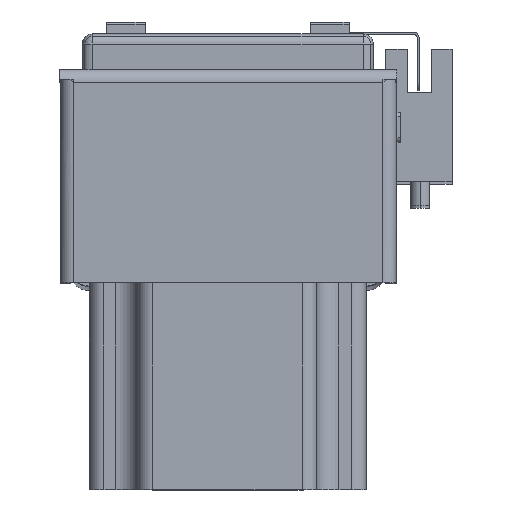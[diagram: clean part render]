
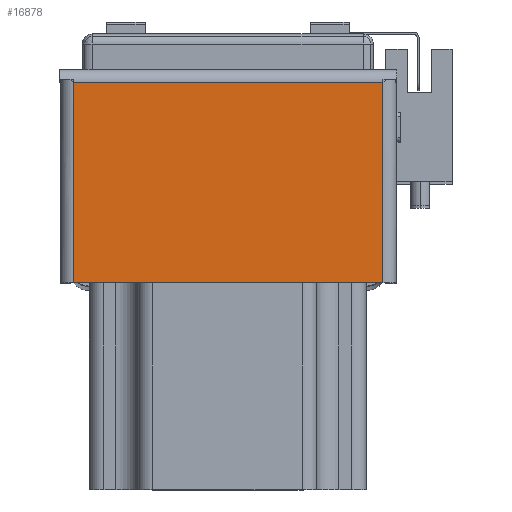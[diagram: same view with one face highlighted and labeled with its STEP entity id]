
A CAD part, top view. The second image highlights one B-rep face of the part: STEP entity #16878.
In plain terms, the highlighted planar face has unit normal (0, 0, 1) as drawn and (1, 0, 0) by its records, which use the part's own axes.
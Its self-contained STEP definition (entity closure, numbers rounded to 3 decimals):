
#1496 = FACE_OUTER_BOUND ( 'NONE', #12470, .T. ) ;
#4468 = CARTESIAN_POINT ( 'NONE',  ( 2., 41.263, -31.863 ) ) ;
#7789 = CARTESIAN_POINT ( 'NONE',  ( 2., 41.263, 31.863 ) ) ;
#7810 = CARTESIAN_POINT ( 'NONE',  ( 2., 0., -31.863 ) ) ;
#7818 = CARTESIAN_POINT ( 'NONE',  ( 2., 0., 31.863 ) ) ;
#11032 = DIRECTION ( 'NONE',  ( -1., 0., 0. ) ) ;
#11041 = PLANE ( 'NONE',  #15344 ) ;
#11042 = DIRECTION ( 'NONE',  ( 0., 0., 1. ) ) ;
#11049 = CARTESIAN_POINT ( 'NONE',  ( 2., 42., -32.6 ) ) ;
#12470 = EDGE_LOOP ( 'NONE', ( #29204, #29254, #29321, #29358 ) ) ;
#15344 = AXIS2_PLACEMENT_3D ( 'NONE', #11049, #11032, #11042 ) ;
#16878 = ADVANCED_FACE ( 'NONE', ( #1496 ), #11041, .F. ) ;
#18795 = LINE ( 'NONE', #20327, #18796 ) ;
#18796 = VECTOR ( 'NONE', #20337, 1000. ) ;
#18798 = LINE ( 'NONE', #20238, #18831 ) ;
#18824 = LINE ( 'NONE', #20296, #18825 ) ;
#18825 = VECTOR ( 'NONE', #20302, 1000. ) ;
#18831 = VECTOR ( 'NONE', #20258, 1000. ) ;
#20238 = CARTESIAN_POINT ( 'NONE',  ( 2., 42., -31.863 ) ) ;
#20253 = CARTESIAN_POINT ( 'NONE',  ( 2., 0., -32.6 ) ) ;
#20258 = DIRECTION ( 'NONE',  ( 0., -1., 0. ) ) ;
#20272 = DIRECTION ( 'NONE',  ( 0., 0., -1. ) ) ;
#20296 = CARTESIAN_POINT ( 'NONE',  ( 2., 42., 31.863 ) ) ;
#20302 = DIRECTION ( 'NONE',  ( 0., -1., 0. ) ) ;
#20327 = CARTESIAN_POINT ( 'NONE',  ( 2., 41.263, -31.863 ) ) ;
#20337 = DIRECTION ( 'NONE',  ( 0., 0., 1. ) ) ;
#24233 = VERTEX_POINT ( 'NONE', #4468 ) ;
#24288 = VERTEX_POINT ( 'NONE', #7818 ) ;
#24304 = VERTEX_POINT ( 'NONE', #7810 ) ;
#24325 = VERTEX_POINT ( 'NONE', #7789 ) ;
#25572 = LINE ( 'NONE', #20253, #26067 ) ;
#26067 = VECTOR ( 'NONE', #20272, 1000. ) ;
#29204 = ORIENTED_EDGE ( 'NONE', *, *, #29819, .T. ) ;
#29254 = ORIENTED_EDGE ( 'NONE', *, *, #29801, .T. ) ;
#29321 = ORIENTED_EDGE ( 'NONE', *, *, #29781, .T. ) ;
#29358 = ORIENTED_EDGE ( 'NONE', *, *, #29783, .F. ) ;
#29781 = EDGE_CURVE ( 'NONE', #24288, #24304, #25572, .T. ) ;
#29783 = EDGE_CURVE ( 'NONE', #24233, #24304, #18798, .T. ) ;
#29801 = EDGE_CURVE ( 'NONE', #24325, #24288, #18824, .T. ) ;
#29819 = EDGE_CURVE ( 'NONE', #24233, #24325, #18795, .T. ) ;
